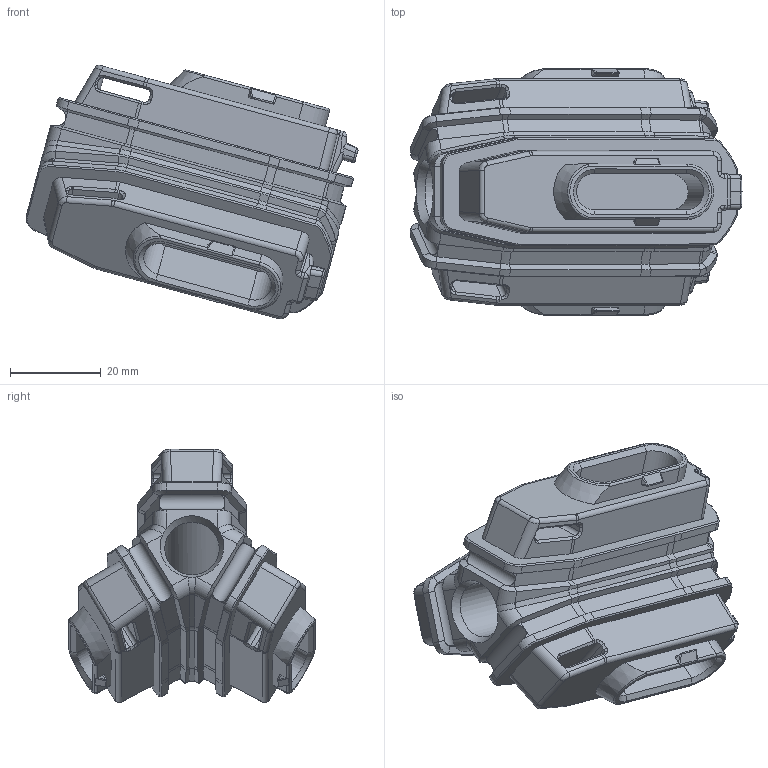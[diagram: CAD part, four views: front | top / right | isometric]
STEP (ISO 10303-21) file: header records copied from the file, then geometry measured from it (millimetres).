
FILE_DESCRIPTION(/* description */ ('STEP AP214'),/* implementation_level */ '2;1');
FILE_NAME(/* name */ 'Druck_Bodenplatte_3-fach_stern.stp',/* time_stamp */ '2026-07-20T16:45:04+02:00',/* author */ ('Thomas'),/* organization */ (''),/* preprocessor_version */ 'ST-DEVELOPER v20.1',/* originating_system */ 'Autodesk Inventor 2026',/* authorisation */ '');
FILE_SCHEMA (('CONFIG_CONTROL_DESIGN'));
Length unit declared in the file: millimetre
Products named in the file (1): Bodenplatte_3-fach_stern
Bounding box: 73.11 x 54.35 x 55.81 mm (x, y, z)
Volume: 63124.9 mm3; surface area: 20810.3 mm2
Topology: 1 solids, 1 shells, 919 faces, 2286 edges, 1352 vertices
Faces by surface type: plane 290, cylinder 262, bspline 234, cone 121, torus 6, sphere 6
Full cylindrical faces by diameter (mm): 12 x1
Entity records: 36337 total; most frequent: CARTESIAN_POINT 16091, ORIENTED_EDGE 4536, DIRECTION 3763, EDGE_CURVE 2268, VERTEX_POINT 1352, AXIS2_PLACEMENT_3D 1333, LINE 1097, VECTOR 1097
